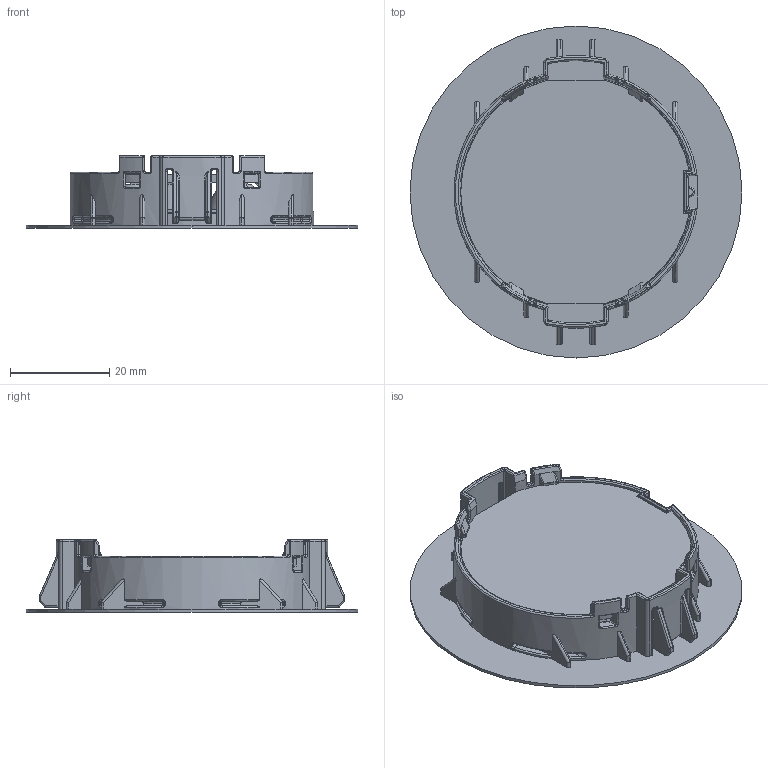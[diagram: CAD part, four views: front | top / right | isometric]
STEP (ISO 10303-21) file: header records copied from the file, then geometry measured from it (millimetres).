
FILE_DESCRIPTION(('Creo Elements/Direct Modeling STEP Export'),'2;1');
FILE_NAME('FLATLINE.stp','2019-03-01T11:03:57',(''),(''),'Creo Elements/Direct Modeling STEP processor for AP214 (Solid Model)','Creo Elements/Direct Modeling 20.0B 07-Aug-2017 (C) Parametric Technology GmbH','');
FILE_SCHEMA(('AUTOMOTIVE_DESIGN { 1 0 10303 214 1 1 1 1 }'));
Products named in the file (2): casing; FLATLINE_D56_molle_acciaio
Assembly tree (1 placements, depth 2):
  FLATLINE_D56_molle_acciaio
    casing
Bounding box: 67 x 67 x 14.6 mm (x, y, z)
Volume: 11310.7 mm3; surface area: 18740.9 mm2
Topology: 1 solids, 11 shells, 1629 faces, 3941 edges, 2266 vertices
Faces by surface type: plane 967, cylinder 307, bspline 175, torus 92, sphere 52, cone 36
Entity records: 59060 total; most frequent: CARTESIAN_POINT 23860, ORIENTED_EDGE 7776, DIRECTION 6304, EDGE_CURVE 3883, VECTOR 2436, LINE 2436, VERTEX_POINT 2266, AXIS2_PLACEMENT_3D 1934
